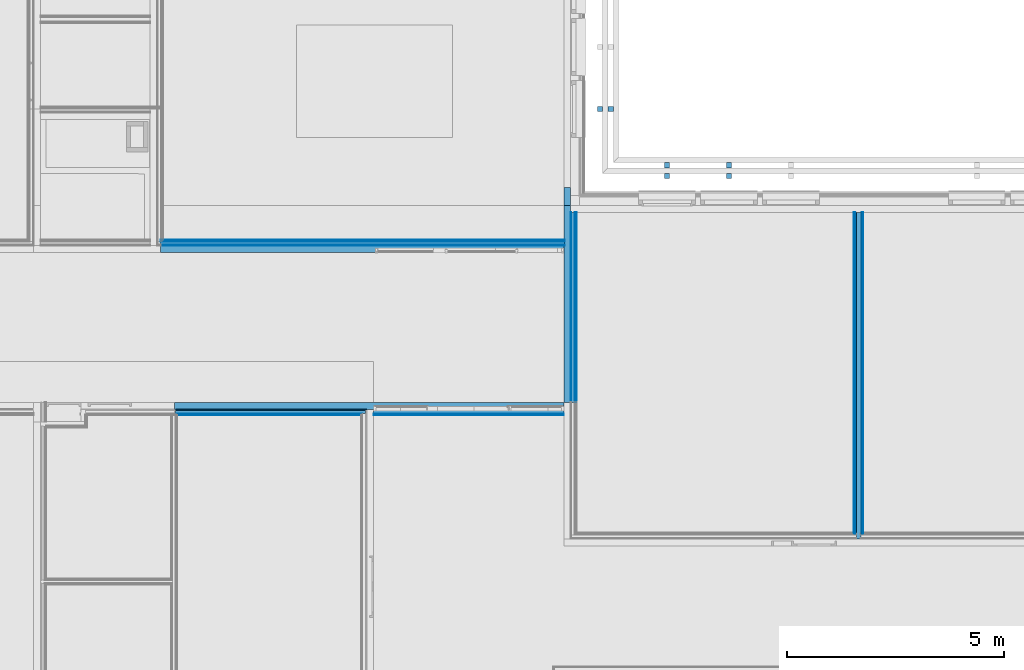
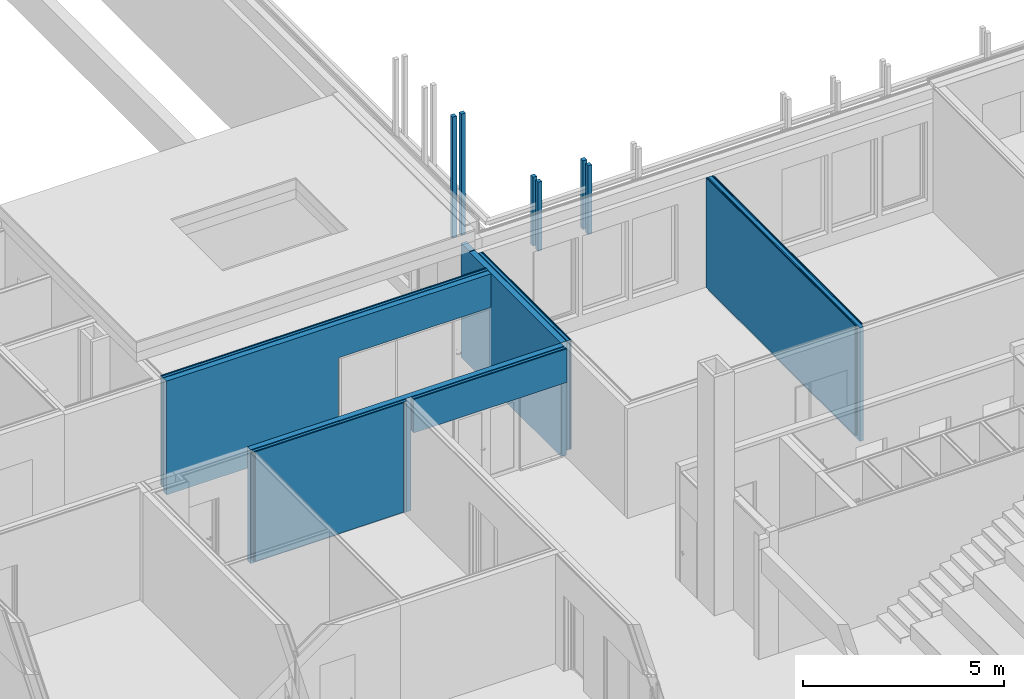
# One storey, part 101 of 139: 29 building element parts, 3 discrete accessories, 2 openings, 4 elements without a shape of their own.
"""IFC2X3 building model written with IfcOpenShell, lengths in millimetres."""

from ifc_helpers import new_model, entity, si_unit, converted_unit, derived_unit, money_unit, direction, frame, origin_with_axes, place, context, subcontext, project, spatial, faceted_brep, material, material_list, type_object, element, aggregate, save


model = new_model("IFC2X3")

# Units and contexts
model_context = context("Model", 3, precision=0.01, world=origin_with_axes(), true_north=direction((0.0, 1.0)))
body_context = subcontext(model_context, "Body", "Model", "MODEL_VIEW")
ifc_project = project(units=[si_unit("LENGTHUNIT", "METRE", prefix="MILLI"), si_unit("AREAUNIT", "SQUARE_METRE"), si_unit("VOLUMEUNIT", "CUBIC_METRE"), converted_unit("PLANEANGLEUNIT", "DEGREE", entity("IfcPlaneAngleMeasure", 0.0174532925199), si_unit("PLANEANGLEUNIT", "RADIAN"), dimensions=[0, 0, 0, 0, 0, 0, 0]), money_unit("EUR"), converted_unit("TIMEUNIT", "Year", entity("IfcTimeMeasure", 31556926.0), si_unit("TIMEUNIT", "SECOND"), dimensions=[0, 0, 1, 0, 0, 0, 0]), si_unit("MASSUNIT", "GRAM", prefix="KILO"), si_unit("THERMODYNAMICTEMPERATUREUNIT", "DEGREE_CELSIUS"), si_unit("LUMINOUSINTENSITYUNIT", "LUMEN"), si_unit("ENERGYUNIT", "JOULE", prefix="MEGA"), derived_unit("THERMALCONDUCTANCEUNIT", [(si_unit("POWERUNIT", "WATT"), 1), (si_unit("LENGTHUNIT", "METRE"), -1), (si_unit("THERMODYNAMICTEMPERATUREUNIT", "KELVIN"), -1)]), derived_unit("SPECIFICHEATCAPACITYUNIT", [(si_unit("ENERGYUNIT", "JOULE"), 1), (si_unit("MASSUNIT", "GRAM", prefix="KILO"), -1), (si_unit("THERMODYNAMICTEMPERATUREUNIT", "KELVIN"), -1)]), derived_unit("MASSDENSITYUNIT", [(si_unit("MASSUNIT", "GRAM", prefix="KILO"), 1), (si_unit("VOLUMEUNIT", "CUBIC_METRE"), -1)])], contexts=[model_context])

# Site, building, storey
site_placement = place(None, origin_with_axes())
site = spatial("IfcSite", under=ifc_project, at=site_placement, Name="Kolde pst 67a", CompositionType="ELEMENT")
building_placement = place(site_placement, origin_with_axes())
building = spatial("IfcBuilding", under=site, at=building_placement, Name="Riigigümnaasium", CompositionType="ELEMENT")
storey_placement = place(building_placement, frame((0.0, 0.0, 4600.0), z_axis=(0.0, 0.0, 1.0), x_axis=(1.0, 0.0, 0.0)))
storey = spatial("IfcBuildingStorey", under=building, at=storey_placement, Name="2. korrus", CompositionType="ELEMENT", Elevation=4600.0)

# Discrete accessories
ifc_material_1 = material(Name="_VÄLISVIIMISTLUS - sõrmjätkatud puitprussid 120x115mm, liitekohad vähemärgatavad, Platowood sõrmjätkatud kuusk või samaväärne; eeltöödeldud tuletõkkevõõbaga, tuletundlikkus B-s1, d0, Woodsafe Exterior WFX™ või samaväärne; kinnitused vastavalt EK osale")
ifc_material_list = material_list([ifc_material_1, ifc_material_1])
discrete_accessory_type = type_object("IfcDiscreteAccessoryType", Name="1+paiksekaitse 3 370 x 115")
discrete_accessory_placement = place(storey_placement, frame((37769.99923, 62725.0246394, 2150.0), z_axis=(0.0, 0.0, 1.0), x_axis=(-1.0, 0.0, 0.0)))
element("IfcDiscreteAccessory", 1, at=discrete_accessory_placement, inside=storey, type_object=discrete_accessory_type, material=ifc_material_list, Name="Päikesevarjestus", context=body_context, shape_type="Brep", body=[
    faceted_brep([(467.0, 117.5, 0.0), (347.0, 117.5, 0.0), (347.0, 117.5, 3670.0), (467.0, 117.5, 3670.0), (467.0, 2.5, 0.0), (347.0, 2.5, 0.0), (347.0, 2.5, 3670.0), (467.0, 2.5, 3670.0)], [[[0, 1, 2, 3]], [[0, 4, 5, 1]], [[1, 5, 6, 2]], [[3, 2, 6, 7]], [[4, 0, 3, 7]], [[5, 4, 7, 6]]]),
    faceted_brep([(717.0, 117.5, 0.0), (597.0, 117.5, 0.0), (597.0, 117.5, 3670.0), (717.0, 117.5, 3670.0), (717.0, 2.5, 0.0), (597.0, 2.5, 0.0), (597.0, 2.5, 3670.0), (717.0, 2.5, 3670.0)], [[[0, 1, 2, 3]], [[0, 4, 5, 1]], [[1, 5, 6, 2]], [[3, 2, 6, 7]], [[4, 0, 3, 7]], [[5, 4, 7, 6]]]),
])
for number, where, z_axis, x_axis in (
    (2, (40035.0059762, 61772.0001843, 2150.0), (0.0, 0.0, 1.0), (0.0, -1.0, 0.0)),
    (3, (38604.990882, 61771.9998075, 2150.0), (0.0, 0.0, 1.0), (0.0, -1.0, 0.0)),
):
    element("IfcDiscreteAccessory", number, at=place(storey_placement, frame(where, z_axis=z_axis, x_axis=x_axis)), inside=storey, type_object=discrete_accessory_type, material=ifc_material_list, Name="Päikesevarjestus", context=body_context, shape_type="Brep", body=[
        faceted_brep([(467.0, 117.5, 0.0), (347.0, 117.5, 0.0), (347.0, 117.5, 2090.0), (467.0, 117.5, 2090.0), (467.0, 2.5, 0.0), (347.0, 2.5, 0.0), (347.0, 2.5, 2090.0), (467.0, 2.5, 2090.0)], [[[0, 1, 2, 3]], [[0, 4, 5, 1]], [[1, 5, 6, 2]], [[3, 2, 6, 7]], [[4, 0, 3, 7]], [[5, 4, 7, 6]]]),
        faceted_brep([(717.0, 117.5, 0.0), (597.0, 117.5, 0.0), (597.0, 117.5, 2090.0), (717.0, 117.5, 2090.0), (717.0, 2.5, 0.0), (597.0, 2.5, 0.0), (597.0, 2.5, 2090.0), (717.0, 2.5, 2090.0)], [[[0, 1, 2, 3]], [[0, 4, 5, 1]], [[1, 5, 6, 2]], [[3, 2, 6, 7]], [[4, 0, 3, 7]], [[5, 4, 7, 6]]]),
    ])

# Wall, building element parts
wall_type_1 = type_object("IfcWallType", Name="SS-CLT-16/1_vill75+krohv 52 dB 300", PredefinedType="NOTDEFINED")
wall_1_placement = place(storey_placement, frame((36439.99923, 60440.0001843, -130.0), z_axis=(0.0, 0.0, 1.0), x_axis=(0.0, -1.0, 0.0)))
wall_1 = element("IfcWall", 4, at=wall_1_placement, inside=storey, type_object=wall_type_1, Name="Sisesein")
ifc_material_2 = material(Name="_VIIMISTLUSKIHT - viimistlus vastavalt SA osale")
building_element_part_1_placement = place(wall_1_placement, origin_with_axes())
building_element_part_1 = element("IfcBuildingElementPart", 5, at=building_element_part_1_placement, material=ifc_material_2, Name="_VIIMISTLUSKIHT - viimistlus vastavalt SA osale", context=body_context, shape_type="Brep", body=[
    faceted_brep([(160.000000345, 130.0, 3450.0), (160.000000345, 140.0, 3450.0), (160.000000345, 140.0, 130.0), (160.000000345, 130.0, 130.0), (4550.08522827, 140.0, 3450.0), (4550.08522827, 130.0, 3450.0), (4550.08522827, 140.0, 130.0), (4550.08522827, 130.0, 130.0)], [[[0, 1, 2, 3]], [[4, 1, 0, 5]], [[1, 4, 6, 2]], [[3, 2, 6, 7]], [[5, 0, 3, 7]], [[4, 5, 7, 6]]]),
])
ifc_material_3 = material(Name="_PLAATMATERJAL - tuletõkkekipsplaat, Knauf Red GKF või samaväärne")
building_element_part_2_placement = place(wall_1_placement, origin_with_axes())
building_element_part_2 = element("IfcBuildingElementPart", 6, at=building_element_part_2_placement, material=ifc_material_3, Name="_PLAATMATERJAL - tuletõkkekipsplaat, Knauf Red GKF või samaväärne", context=body_context, shape_type="Brep", body=[
    faceted_brep([(160.000000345, 115.0, 3450.0), (160.000000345, 130.0, 3450.0), (160.000000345, 130.0, 127.0), (160.000000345, 115.0, 127.0), (4550.08522827, 130.0, 3450.0), (4550.08522827, 115.0, 3450.0), (4550.08522827, 130.0, 127.0), (4550.08522827, 115.0, 127.0)], [[[0, 1, 2, 3]], [[4, 1, 0, 5]], [[1, 4, 6, 2]], [[3, 2, 6, 7]], [[5, 0, 3, 7]], [[4, 5, 7, 6]]]),
])
building_element_part_3_placement = place(wall_1_placement, origin_with_axes())
building_element_part_3 = element("IfcBuildingElementPart", 7, at=building_element_part_3_placement, material=ifc_material_3, Name="_PLAATMATERJAL - tuletõkkekipsplaat, Knauf Red GKF või samaväärne", context=body_context, shape_type="Brep", body=[
    faceted_brep([(160.000000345, 100.0, 3450.0), (160.000000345, 115.0, 3450.0), (160.000000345, 115.0, 127.0), (160.000000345, 100.0, 127.0), (4550.08522827, 115.0, 3450.0), (4550.08522827, 100.0, 3450.0), (4550.08522827, 115.0, 127.0), (4550.08522827, 100.0, 127.0)], [[[0, 1, 2, 3]], [[4, 1, 0, 5]], [[1, 4, 6, 2]], [[3, 2, 6, 7]], [[5, 0, 3, 7]], [[4, 5, 7, 6]]]),
])
ifc_material_4 = material(Name="_PLAATMATERJAL - OSB3 plaat")
building_element_part_4_placement = place(wall_1_placement, origin_with_axes())
building_element_part_4 = element("IfcBuildingElementPart", 8, at=building_element_part_4_placement, material=ifc_material_4, Name="_PLAATMATERJAL - OSB3 plaat", context=body_context, shape_type="Brep", body=[
    faceted_brep([(160.000000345, 90.0, 3450.0), (160.000000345, 100.0, 3450.0), (160.000000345, 100.0, 127.0), (160.000000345, 90.0, 127.0), (4550.08522827, 100.0, 3450.0), (4550.08522827, 90.0, 3450.0), (4550.08522827, 100.0, 127.0), (4550.08522827, 90.0, 127.0)], [[[0, 1, 2, 3]], [[4, 1, 0, 5]], [[1, 4, 6, 2]], [[3, 2, 6, 7]], [[5, 0, 3, 7]], [[4, 5, 7, 6]]]),
])
ifc_material_5 = material(Name="_KARKASS - metallkarkass CW 75/50/06 ja UW 75/40/06, samm 600, vahel mineraalvill, helineeldetegur αw = 1.0,  ISOVER ACOUSTIC 75mm või samaväärne")
building_element_part_5_placement = place(wall_1_placement, origin_with_axes())
building_element_part_5 = element("IfcBuildingElementPart", 9, at=building_element_part_5_placement, material=ifc_material_5, Name="_KARKASS - metallkarkass CW 75/50/06 ja UW 75/40/06, samm 600, vahel mineraalvill, helineeldetegur αw = 1.0,  ISOVER ACOUSTIC 75mm või samaväärne", context=body_context, shape_type="Brep", body=[
    faceted_brep([(160.000000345, 15.0, 3450.0), (160.000000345, 90.0, 3450.0), (160.000000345, 90.0, 127.0), (160.000000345, 15.0, 127.0), (4550.08522827, 90.0, 3450.0), (4550.08522827, 15.0, 3450.0), (4550.08522827, 90.0, 127.0), (4550.08522827, 15.0, 127.0)], [[[0, 1, 2, 3]], [[4, 1, 0, 5]], [[1, 4, 6, 2]], [[3, 2, 6, 7]], [[5, 0, 3, 7]], [[4, 5, 7, 6]]]),
])
ifc_material_6 = material(Name="_ÕHKVAHE")
building_element_part_6_placement = place(wall_1_placement, origin_with_axes())
building_element_part_6 = element("IfcBuildingElementPart", 10, at=building_element_part_6_placement, material=ifc_material_6, Name="_ÕHKVAHE", context=body_context, shape_type="Brep", body=[
    faceted_brep([(160.000000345, 0.0, 3450.0), (160.000000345, 15.0, 3450.0), (160.000000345, 15.0, 127.0), (160.000000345, 0.0, 127.0), (4550.08522827, 15.0, 3450.0), (4550.08522827, 0.0, 3450.0), (4550.08522827, 15.0, 127.0), (4550.08522827, 0.0, 127.0)], [[[0, 1, 2, 3]], [[4, 1, 0, 5]], [[1, 4, 6, 2]], [[3, 2, 6, 7]], [[5, 0, 3, 7]], [[4, 5, 7, 6]]]),
])
ifc_material_7 = material(Name="_KANDETARIND - CLT ristkihtliimpuit vastavalt EK osale, CLT paigaldusvuugid teibitakse ROTHOBLAAS teibiga")
building_element_part_7_placement = place(wall_1_placement, origin_with_axes())
building_element_part_7 = element("IfcBuildingElementPart", 11, at=building_element_part_7_placement, material=ifc_material_7, Name="_KANDETARIND - CLT ristkihtliimpuit vastavalt EK osale, CLT paigaldusvuugid teibitakse ROTHOBLAAS teibiga", context=body_context, shape_type="Brep", body=[
    faceted_brep([(0.0, -160.0, 3470.0), (0.0, 0.0, 3470.0), (-412.0, 0.0, 3470.0), (-412.0, -160.0, 3470.0), (0.0, 0.0, 3450.0), (0.0, -160.0, 3450.0), (4550.08522827, 0.0, 3450.0), (4550.08522827, 0.0, 0.0), (-412.0, 0.0, 0.0), (-412.0, -160.0, 0.0), (4550.08522827, -160.0, 0.0), (4550.08522827, -160.0, 3450.0)], [[[0, 1, 2, 3]], [[4, 1, 0, 5]], [[4, 6, 7, 8, 2, 1]], [[9, 3, 2, 8]], [[5, 0, 3, 9, 10, 11]], [[6, 4, 5, 11]], [[6, 11, 10, 7]], [[10, 9, 8, 7]]]),
])
aggregate(wall_1, [building_element_part_1, building_element_part_2, building_element_part_3, building_element_part_4, building_element_part_5, building_element_part_6, building_element_part_7])

# Wall, opening, building element parts
wall_2_placement = place(storey_placement, frame((36299.99923, 59349.9979478, -150.0), z_axis=(0.0, 0.0, 1.0), x_axis=(-1.0, 0.0, 0.0)))
wall_2 = element("IfcWall", 12, at=wall_2_placement, inside=storey, type_object=wall_type_1, Name="Sisesein")
opening_1_placement = place(wall_2_placement, frame((2197.5, 0.0, 150.0), z_axis=(0.0, 0.0, 1.0), x_axis=(1.0, 0.0, 0.0)))
element("IfcOpeningElement", 13, at=opening_1_placement, cuts=wall_2, Name="Ukseava", context=body_context, shape_type="Brep", body=[
    faceted_brep([(2197.5, 600.0, 0.0), (2197.5, 600.0, 2300.0), (2197.5, -300.0, 2300.0), (2197.5, -300.0, 0.0), (-2197.5, 600.0, 0.0), (-2197.5, 600.0, 2300.0), (-2197.5, -300.0, 2300.0), (-2197.5, -300.0, 0.0)], [[[0, 1, 2, 3]], [[0, 4, 5, 1]], [[1, 5, 6, 2]], [[3, 2, 6, 7]], [[4, 0, 3, 7]], [[5, 4, 7, 6]]]),
])
building_element_part_8_placement = place(wall_2_placement, origin_with_axes())
building_element_part_8 = element("IfcBuildingElementPart", 14, at=building_element_part_8_placement, material=ifc_material_7, Name="_KANDETARIND - CLT ristkihtliimpuit vastavalt EK osale, CLT paigaldusvuugid teibitakse ROTHOBLAAS teibiga", context=body_context, shape_type="Brep", body=[
    faceted_brep([(0.0, 0.0, 2450.0), (0.0, -160.0, 2450.0), (0.0, -160.0, 3470.0), (0.0, 0.0, 3470.0), (4395.0, -160.0, 2450.0), (4395.0, 0.0, 2450.0), (4395.0, -160.0, 150.0), (4395.0, -160.0, 20.0), (9330.0, -160.0, 20.0), (9330.0, -160.0, 3470.0), (9330.0, 0.0, 3470.0), (9330.0, 0.0, 20.0), (4395.0, 0.0, 20.0), (4395.0, 0.0, 150.0)], [[[0, 1, 2, 3]], [[4, 1, 0, 5]], [[4, 6, 7, 8, 9, 2, 1]], [[2, 9, 10, 3]], [[5, 0, 3, 10, 11, 12, 13]], [[6, 4, 5, 13]], [[6, 13, 12, 7]], [[12, 11, 8, 7]], [[9, 8, 11, 10]]]),
])
building_element_part_9_placement = place(wall_2_placement, origin_with_axes())
building_element_part_9 = element("IfcBuildingElementPart", 15, at=building_element_part_9_placement, material=ifc_material_6, Name="_ÕHKVAHE", context=body_context, shape_type="Brep", body=[
    faceted_brep([(0.0, -160.0, 2450.0), (0.0, -175.0, 2450.0), (0.0, -175.0, 3470.0), (0.0, -160.0, 3470.0), (4395.0, -175.0, 2450.0), (4395.0, -160.0, 2450.0), (4395.0, -175.0, 150.0), (4395.0, -175.0, 147.0), (5890.02113189, -175.0, 147.0), (5890.02113189, -175.0, 150.0), (5965.02113189, -175.0, 150.0), (5965.02113189, -175.0, 147.0), (7240.0256299, -175.0, 147.0), (7240.0256299, -175.0, 150.0), (7315.0256299, -175.0, 150.0), (7315.0256299, -175.0, 147.0), (8494.99994488, -175.0, 147.0), (8494.99994488, -175.0, 150.0), (8594.99994509, -175.0, 150.0), (8594.99994509, -175.0, 147.0), (9330.0, -175.0, 147.0), (9330.0, -175.0, 3470.0), (9330.0, -160.0, 3470.0), (9330.0, -160.0, 147.0), (8594.99994509, -160.0, 147.0), (8594.99994509, -160.0, 150.0), (8494.9999449, -160.0, 150.0), (8494.9999449, -160.0, 147.0), (7315.0256299, -160.0, 147.0), (7315.0256299, -160.0, 150.0), (7240.0256299, -160.0, 150.0), (7240.0256299, -160.0, 147.0), (5965.02130463, -160.0, 147.0), (5965.02130463, -160.0, 150.0), (5890.02130463, -160.0, 150.0), (5890.02130463, -160.0, 147.0), (4395.0, -160.0, 147.0), (4395.0, -160.0, 150.0)], [[[0, 1, 2, 3]], [[4, 1, 0, 5]], [[4, 6, 7, 8, 9, 10, 11, 12, 13, 14, 15, 16, 17, 18, 19, 20, 21, 2, 1]], [[2, 21, 22, 3]], [[5, 0, 3, 22, 23, 24, 25, 26, 27, 28, 29, 30, 31, 32, 33, 34, 35, 36, 37]], [[6, 4, 5, 37]], [[6, 37, 36, 7]], [[36, 35, 8, 7]], [[35, 34, 9, 8]], [[10, 9, 34, 33]], [[11, 10, 33, 32]], [[11, 32, 31, 12]], [[31, 30, 13, 12]], [[14, 13, 30, 29]], [[15, 14, 29, 28]], [[15, 28, 27, 16]], [[27, 26, 17, 16]], [[18, 17, 26, 25]], [[19, 18, 25, 24]], [[19, 24, 23, 20]], [[21, 20, 23, 22]]]),
])
building_element_part_10_placement = place(wall_2_placement, origin_with_axes())
building_element_part_10 = element("IfcBuildingElementPart", 16, at=building_element_part_10_placement, material=ifc_material_5, Name="_KARKASS - metallkarkass CW 75/50/06 ja UW 75/40/06, samm 600, vahel mineraalvill, helineeldetegur αw = 1.0,  ISOVER ACOUSTIC 75mm või samaväärne", context=body_context, shape_type="Brep", body=[
    faceted_brep([(0.0, -175.0, 2450.0), (0.0, -250.0, 2450.0), (0.0, -250.0, 3470.0), (0.0, -175.0, 3470.0), (4395.0, -250.0, 2450.0), (4395.0, -175.0, 2450.0), (4395.0, -250.0, 150.0), (4395.0, -250.0, 147.0), (5890.02026819, -250.0, 147.0), (5890.02026819, -250.0, 150.0), (5965.0202682, -250.0, 150.0), (5965.0202682, -250.0, 147.0), (7240.0256299, -250.0, 147.0), (7240.0256299, -250.0, 150.0), (7315.0256299, -250.0, 150.0), (7315.0256299, -250.0, 147.0), (8494.99994478, -250.0, 147.0), (8494.99994478, -250.0, 150.0), (8594.99994509, -250.0, 150.0), (8594.99994509, -250.0, 147.0), (9330.0, -250.0, 147.0), (9330.0, -250.0, 3470.0), (9330.0, -175.0, 3470.0), (9330.0, -175.0, 147.0), (8594.99994509, -175.0, 147.0), (8594.99994509, -175.0, 150.0), (8494.99994488, -175.0, 150.0), (8494.99994488, -175.0, 147.0), (7315.0256299, -175.0, 147.0), (7315.0256299, -175.0, 150.0), (7240.0256299, -175.0, 150.0), (7240.0256299, -175.0, 147.0), (5965.02113189, -175.0, 147.0), (5965.02113189, -175.0, 150.0), (5890.02113189, -175.0, 150.0), (5890.02113189, -175.0, 147.0), (4395.0, -175.0, 147.0), (4395.0, -175.0, 150.0)], [[[0, 1, 2, 3]], [[4, 1, 0, 5]], [[4, 6, 7, 8, 9, 10, 11, 12, 13, 14, 15, 16, 17, 18, 19, 20, 21, 2, 1]], [[2, 21, 22, 3]], [[5, 0, 3, 22, 23, 24, 25, 26, 27, 28, 29, 30, 31, 32, 33, 34, 35, 36, 37]], [[6, 4, 5, 37]], [[6, 37, 36, 7]], [[36, 35, 8, 7]], [[35, 34, 9, 8]], [[10, 9, 34, 33]], [[11, 10, 33, 32]], [[11, 32, 31, 12]], [[31, 30, 13, 12]], [[14, 13, 30, 29]], [[15, 14, 29, 28]], [[15, 28, 27, 16]], [[27, 26, 17, 16]], [[18, 17, 26, 25]], [[19, 18, 25, 24]], [[19, 24, 23, 20]], [[21, 20, 23, 22]]]),
])
building_element_part_11_placement = place(wall_2_placement, origin_with_axes())
building_element_part_11 = element("IfcBuildingElementPart", 17, at=building_element_part_11_placement, material=ifc_material_4, Name="_PLAATMATERJAL - OSB3 plaat", context=body_context, shape_type="Brep", body=[
    faceted_brep([(0.0, -250.0, 2450.0), (0.0, -260.0, 2450.0), (0.0, -260.0, 3470.0), (0.0, -250.0, 3470.0), (4395.0, -260.0, 2450.0), (4395.0, -250.0, 2450.0), (4395.0, -260.0, 150.0), (4395.0, -260.0, 147.0), (5890.02015303, -260.0, 147.0), (5890.02015303, -260.0, 150.0), (5965.02015304, -260.0, 150.0), (5965.02015304, -260.0, 147.0), (7240.0256299, -260.0, 147.0), (7240.0256299, -260.0, 150.0), (7315.0256299, -260.0, 150.0), (7315.0256299, -260.0, 147.0), (8494.99994477, -260.0, 147.0), (8494.99994477, -260.0, 150.0), (8594.99994509, -260.0, 150.0), (8594.99994509, -260.0, 147.0), (9330.0, -260.0, 147.0), (9330.0, -260.0, 3470.0), (9330.0, -250.0, 3470.0), (9330.0, -250.0, 147.0), (8594.99994509, -250.0, 147.0), (8594.99994509, -250.0, 150.0), (8494.99994478, -250.0, 150.0), (8494.99994478, -250.0, 147.0), (7315.0256299, -250.0, 147.0), (7315.0256299, -250.0, 150.0), (7240.0256299, -250.0, 150.0), (7240.0256299, -250.0, 147.0), (5965.0202682, -250.0, 147.0), (5965.0202682, -250.0, 150.0), (5890.02026819, -250.0, 150.0), (5890.02026819, -250.0, 147.0), (4395.0, -250.0, 147.0), (4395.0, -250.0, 150.0)], [[[0, 1, 2, 3]], [[4, 1, 0, 5]], [[4, 6, 7, 8, 9, 10, 11, 12, 13, 14, 15, 16, 17, 18, 19, 20, 21, 2, 1]], [[2, 21, 22, 3]], [[5, 0, 3, 22, 23, 24, 25, 26, 27, 28, 29, 30, 31, 32, 33, 34, 35, 36, 37]], [[6, 4, 5, 37]], [[6, 37, 36, 7]], [[36, 35, 8, 7]], [[35, 34, 9, 8]], [[10, 9, 34, 33]], [[11, 10, 33, 32]], [[11, 32, 31, 12]], [[31, 30, 13, 12]], [[14, 13, 30, 29]], [[15, 14, 29, 28]], [[15, 28, 27, 16]], [[27, 26, 17, 16]], [[18, 17, 26, 25]], [[19, 18, 25, 24]], [[19, 24, 23, 20]], [[21, 20, 23, 22]]]),
])
building_element_part_12_placement = place(wall_2_placement, origin_with_axes())
building_element_part_12 = element("IfcBuildingElementPart", 18, at=building_element_part_12_placement, material=ifc_material_3, Name="_PLAATMATERJAL - tuletõkkekipsplaat, Knauf Red GKF või samaväärne", context=body_context, shape_type="Brep", body=[
    faceted_brep([(0.0, -260.0, 2450.0), (0.0, -275.0, 2450.0), (0.0, -275.0, 3470.0), (0.0, -260.0, 3470.0), (4395.0, -275.0, 2450.0), (4395.0, -260.0, 2450.0), (4395.0, -275.0, 150.0), (4395.0, -275.0, 147.0), (5890.01998029, -275.0, 147.0), (5890.01998029, -275.0, 150.0), (5965.0199803, -275.0, 150.0), (5965.0199803, -275.0, 147.0), (7240.0256299, -275.0, 147.0), (7240.0256299, -275.0, 150.0), (7315.0256299, -275.0, 150.0), (7315.0256299, -275.0, 147.0), (8494.99994475, -275.0, 147.0), (8494.99994475, -275.0, 150.0), (8594.99994509, -275.0, 150.0), (8594.99994509, -275.0, 147.0), (9330.0, -275.0, 147.0), (9330.0, -275.0, 3470.0), (9330.0, -260.0, 3470.0), (9330.0, -260.0, 147.0), (8594.99994509, -260.0, 147.0), (8594.99994509, -260.0, 150.0), (8494.99994477, -260.0, 150.0), (8494.99994477, -260.0, 147.0), (7315.0256299, -260.0, 147.0), (7315.0256299, -260.0, 150.0), (7240.0256299, -260.0, 150.0), (7240.0256299, -260.0, 147.0), (5965.02015304, -260.0, 147.0), (5965.02015304, -260.0, 150.0), (5890.02015303, -260.0, 150.0), (5890.02015303, -260.0, 147.0), (4395.0, -260.0, 147.0), (4395.0, -260.0, 150.0)], [[[0, 1, 2, 3]], [[4, 1, 0, 5]], [[4, 6, 7, 8, 9, 10, 11, 12, 13, 14, 15, 16, 17, 18, 19, 20, 21, 2, 1]], [[2, 21, 22, 3]], [[5, 0, 3, 22, 23, 24, 25, 26, 27, 28, 29, 30, 31, 32, 33, 34, 35, 36, 37]], [[6, 4, 5, 37]], [[6, 37, 36, 7]], [[36, 35, 8, 7]], [[35, 34, 9, 8]], [[10, 9, 34, 33]], [[11, 10, 33, 32]], [[11, 32, 31, 12]], [[31, 30, 13, 12]], [[14, 13, 30, 29]], [[15, 14, 29, 28]], [[15, 28, 27, 16]], [[27, 26, 17, 16]], [[18, 17, 26, 25]], [[19, 18, 25, 24]], [[19, 24, 23, 20]], [[21, 20, 23, 22]]]),
])
building_element_part_13_placement = place(wall_2_placement, origin_with_axes())
building_element_part_13 = element("IfcBuildingElementPart", 19, at=building_element_part_13_placement, material=ifc_material_3, Name="_PLAATMATERJAL - tuletõkkekipsplaat, Knauf Red GKF või samaväärne", context=body_context, shape_type="Brep", body=[
    faceted_brep([(0.0, -275.0, 2450.0), (0.0, -290.0, 2450.0), (0.0, -290.0, 3470.0), (0.0, -275.0, 3470.0), (4395.0, -290.0, 2450.0), (4395.0, -275.0, 2450.0), (4395.0, -290.0, 150.0), (4395.0, -290.0, 147.0), (5890.01980755, -290.0, 147.0), (5890.01980755, -290.0, 150.0), (5965.01980756, -290.0, 150.0), (5965.01980756, -290.0, 147.0), (7240.0256299, -290.0, 147.0), (7240.0256299, -290.0, 150.0), (7315.0256299, -290.0, 150.0), (7315.0256299, -290.0, 147.0), (8494.99994474, -290.0, 147.0), (8494.99994474, -290.0, 150.0), (8594.99994509, -290.0, 150.0), (8594.99994509, -290.0, 147.0), (9330.0, -290.0, 147.0), (9330.0, -290.0, 3470.0), (9330.0, -275.0, 3470.0), (9330.0, -275.0, 147.0), (8594.99994509, -275.0, 147.0), (8594.99994509, -275.0, 150.0), (8494.99994475, -275.0, 150.0), (8494.99994475, -275.0, 147.0), (7315.0256299, -275.0, 147.0), (7315.0256299, -275.0, 150.0), (7240.0256299, -275.0, 150.0), (7240.0256299, -275.0, 147.0), (5965.0199803, -275.0, 147.0), (5965.0199803, -275.0, 150.0), (5890.01998029, -275.0, 150.0), (5890.01998029, -275.0, 147.0), (4395.0, -275.0, 147.0), (4395.0, -275.0, 150.0)], [[[0, 1, 2, 3]], [[4, 1, 0, 5]], [[4, 6, 7, 8, 9, 10, 11, 12, 13, 14, 15, 16, 17, 18, 19, 20, 21, 2, 1]], [[2, 21, 22, 3]], [[5, 0, 3, 22, 23, 24, 25, 26, 27, 28, 29, 30, 31, 32, 33, 34, 35, 36, 37]], [[6, 4, 5, 37]], [[6, 37, 36, 7]], [[36, 35, 8, 7]], [[35, 34, 9, 8]], [[10, 9, 34, 33]], [[11, 10, 33, 32]], [[11, 32, 31, 12]], [[31, 30, 13, 12]], [[14, 13, 30, 29]], [[15, 14, 29, 28]], [[15, 28, 27, 16]], [[27, 26, 17, 16]], [[18, 17, 26, 25]], [[19, 18, 25, 24]], [[19, 24, 23, 20]], [[21, 20, 23, 22]]]),
])
building_element_part_14_placement = place(wall_2_placement, origin_with_axes())
building_element_part_14 = element("IfcBuildingElementPart", 20, at=building_element_part_14_placement, material=ifc_material_2, Name="_VIIMISTLUSKIHT - viimistlus vastavalt SA osale", context=body_context, shape_type="Brep", body=[
    faceted_brep([(0.0, -290.0, 2450.0), (0.0, -300.0, 2450.0), (0.0, -300.0, 3470.0), (0.0, -290.0, 3470.0), (4395.0, -300.0, 2450.0), (4395.0, -290.0, 2450.0), (4395.0, -300.0, 150.0), (9330.0, -300.0, 150.0), (9330.0, -300.0, 3470.0), (9330.0, -290.0, 3470.0), (9330.0, -290.0, 150.0), (4395.0, -290.0, 150.0)], [[[0, 1, 2, 3]], [[4, 1, 0, 5]], [[4, 6, 7, 8, 2, 1]], [[2, 8, 9, 3]], [[5, 0, 3, 9, 10, 11]], [[6, 4, 5, 11]], [[6, 11, 10, 7]], [[8, 7, 10, 9]]]),
])
aggregate(wall_2, [building_element_part_8, building_element_part_9, building_element_part_10, building_element_part_11, building_element_part_12, building_element_part_13, building_element_part_14])

# Wall, building element parts
wall_type_2 = type_object("IfcWallType", Name="SS-PK-10/4_vill100+2värv distantsliistudega 220", PredefinedType="NOTDEFINED")
wall_3_placement = place(storey_placement, frame((42978.0413793, 52580.0001843, -130.0), z_axis=(0.0, 0.0, 1.0), x_axis=(0.0, 1.0, 0.0)))
wall_3 = element("IfcWall", 21, at=wall_3_placement, inside=storey, type_object=wall_type_2, Name="Sisesein")
building_element_part_15_placement = place(wall_3_placement, origin_with_axes())
building_element_part_15 = element("IfcBuildingElementPart", 22, at=building_element_part_15_placement, material=ifc_material_2, Name="_VIIMISTLUSKIHT - viimistlus vastavalt SA osale", context=body_context, shape_type="Brep", body=[
    faceted_brep([(7700.0, 0.0, 3450.0), (7700.0, -5.0, 3450.0), (7700.0, -5.0, 130.0), (7700.0, 0.0, 130.0), (300.0, -5.0, 3450.0), (300.0, 0.0, 3450.0), (300.0, -5.0, 130.0), (300.0, 0.0, 130.0)], [[[0, 1, 2, 3]], [[4, 1, 0, 5]], [[1, 4, 6, 2]], [[3, 2, 6, 7]], [[5, 0, 3, 7]], [[4, 5, 7, 6]]]),
])
building_element_part_16_placement = place(wall_3_placement, origin_with_axes())
building_element_part_16 = element("IfcBuildingElementPart", 23, at=building_element_part_16_placement, material=ifc_material_3, Name="_PLAATMATERJAL - tuletõkkekipsplaat, Knauf Red GKF või samaväärne", context=body_context, shape_type="Brep", body=[
    faceted_brep([(7700.0, -5.0, 3450.0), (7700.0, -20.0, 3450.0), (7700.0, -20.0, 127.0), (7700.0, -5.0, 127.0), (290.0, -20.0, 3450.0), (290.0, -5.0, 3450.0), (290.0, -20.0, 127.0), (290.0, -5.0, 127.0)], [[[0, 1, 2, 3]], [[4, 1, 0, 5]], [[1, 4, 6, 2]], [[3, 2, 6, 7]], [[5, 0, 3, 7]], [[4, 5, 7, 6]]]),
])
building_element_part_17_placement = place(wall_3_placement, origin_with_axes())
building_element_part_17 = element("IfcBuildingElementPart", 24, at=building_element_part_17_placement, material=ifc_material_4, Name="_PLAATMATERJAL - OSB3 plaat", context=body_context, shape_type="Brep", body=[
    faceted_brep([(7700.0, -20.0, 3450.0), (7700.0, -35.0, 3450.0), (7700.0, -35.0, 127.0), (7700.0, -20.0, 127.0), (275.0, -35.0, 3450.0), (275.0, -20.0, 3450.0), (275.0, -35.0, 127.0), (275.0, -20.0, 127.0)], [[[0, 1, 2, 3]], [[4, 1, 0, 5]], [[1, 4, 6, 2]], [[3, 2, 6, 7]], [[5, 0, 3, 7]], [[4, 5, 7, 6]]]),
])
ifc_material_8 = material(Name="_KARKASS- distantasliist")
building_element_part_18_placement = place(wall_3_placement, origin_with_axes())
building_element_part_18 = element("IfcBuildingElementPart", 25, at=building_element_part_18_placement, material=ifc_material_8, Name="_KARKASS- distantasliist", context=body_context, shape_type="Brep", body=[
    faceted_brep([(7700.0, -35.0, 3450.0), (7700.0, -60.0, 3450.0), (7700.0, -60.0, 127.0), (7700.0, -35.0, 127.0), (275.0, -60.0, 3450.0), (275.0, -35.0, 3450.0), (275.0, -60.0, 127.0), (275.0, -35.0, 127.0)], [[[0, 1, 2, 3]], [[4, 1, 0, 5]], [[1, 4, 6, 2]], [[3, 2, 6, 7]], [[5, 0, 3, 7]], [[4, 5, 7, 6]]]),
])
ifc_material_9 = material(Name="_KARKASS - puitpruss 100x50mm vertikaalne, samm 600mm, vahel mineraalvill, helineeldetegur αw = 1.0, ISOVER ACOUSTIC 100mm või samaväärne")
building_element_part_19_placement = place(wall_3_placement, origin_with_axes())
building_element_part_19 = element("IfcBuildingElementPart", 26, at=building_element_part_19_placement, material=ifc_material_9, Name="_KARKASS - puitpruss 100x50mm vertikaalne, samm 600mm, vahel mineraalvill, helineeldetegur αw = 1.0, ISOVER ACOUSTIC 100mm või samaväärne", context=body_context, shape_type="Brep", body=[
    faceted_brep([(7700.0, -60.0, 3450.0), (7700.0, -160.0, 3450.0), (7700.0, -160.0, 0.0), (7700.0, -60.0, 0.0), (160.0, -160.0, 3450.0), (160.0, -60.0, 3450.0), (160.0, -160.0, 0.0), (160.0, -60.0, 0.0)], [[[0, 1, 2, 3]], [[4, 1, 0, 5]], [[1, 4, 6, 2]], [[3, 2, 6, 7]], [[5, 0, 3, 7]], [[4, 5, 7, 6]]]),
])
building_element_part_20_placement = place(wall_3_placement, origin_with_axes())
building_element_part_20 = element("IfcBuildingElementPart", 27, at=building_element_part_20_placement, material=ifc_material_8, Name="_KARKASS- distantasliist", context=body_context, shape_type="Brep", body=[
    faceted_brep([(7700.0, -160.0, 3450.0), (7700.0, -185.0, 3450.0), (7700.0, -185.0, 127.0), (7700.0, -160.0, 127.0), (275.0, -185.0, 3450.0), (275.0, -160.0, 3450.0), (275.0, -185.0, 127.0), (275.0, -160.0, 127.0)], [[[0, 1, 2, 3]], [[4, 1, 0, 5]], [[1, 4, 6, 2]], [[3, 2, 6, 7]], [[5, 0, 3, 7]], [[4, 5, 7, 6]]]),
])
building_element_part_21_placement = place(wall_3_placement, origin_with_axes())
building_element_part_21 = element("IfcBuildingElementPart", 28, at=building_element_part_21_placement, material=ifc_material_4, Name="_PLAATMATERJAL - OSB3 plaat", context=body_context, shape_type="Brep", body=[
    faceted_brep([(7700.0, -185.0, 3450.0), (7700.0, -200.0, 3450.0), (7700.0, -200.0, 127.0), (7700.0, -185.0, 127.0), (275.0, -200.0, 3450.0), (275.0, -185.0, 3450.0), (275.0, -200.0, 127.0), (275.0, -185.0, 127.0)], [[[0, 1, 2, 3]], [[4, 1, 0, 5]], [[1, 4, 6, 2]], [[3, 2, 6, 7]], [[5, 0, 3, 7]], [[4, 5, 7, 6]]]),
])
building_element_part_22_placement = place(wall_3_placement, origin_with_axes())
building_element_part_22 = element("IfcBuildingElementPart", 29, at=building_element_part_22_placement, material=ifc_material_3, Name="_PLAATMATERJAL - tuletõkkekipsplaat, Knauf Red GKF või samaväärne", context=body_context, shape_type="Brep", body=[
    faceted_brep([(7700.0, -200.0, 3450.0), (7700.0, -215.0, 3450.0), (7700.0, -215.0, 127.0), (7700.0, -200.0, 127.0), (290.0, -215.0, 3450.0), (290.0, -200.0, 3450.0), (290.0, -215.0, 127.0), (290.0, -200.0, 127.0)], [[[0, 1, 2, 3]], [[4, 1, 0, 5]], [[1, 4, 6, 2]], [[3, 2, 6, 7]], [[5, 0, 3, 7]], [[4, 5, 7, 6]]]),
])
building_element_part_23_placement = place(wall_3_placement, origin_with_axes())
building_element_part_23 = element("IfcBuildingElementPart", 30, at=building_element_part_23_placement, material=ifc_material_2, Name="_VIIMISTLUSKIHT - viimistlus vastavalt SA osale", context=body_context, shape_type="Brep", body=[
    faceted_brep([(7700.0, -215.0, 3450.0), (7700.0, -220.0, 3450.0), (7700.0, -220.0, 130.0), (7700.0, -215.0, 130.0), (300.0, -220.0, 3450.0), (300.0, -215.0, 3450.0), (300.0, -220.0, 130.0), (300.0, -215.0, 130.0)], [[[0, 1, 2, 3]], [[4, 1, 0, 5]], [[1, 4, 6, 2]], [[3, 2, 6, 7]], [[5, 0, 3, 7]], [[4, 5, 7, 6]]]),
])
aggregate(wall_3, [building_element_part_15, building_element_part_16, building_element_part_17, building_element_part_18, building_element_part_19, building_element_part_20, building_element_part_21, building_element_part_22, building_element_part_23])

# Wall, opening, building element parts
wall_type_3 = type_object("IfcWallType", Name="SS-CLT-16/5_vill75+värv 52 dB 292", PredefinedType="NOTDEFINED")
wall_4_placement = place(storey_placement, frame((27288.6959239, 55889.9736057, -150.0), z_axis=(0.0, 0.0, 1.0), x_axis=(0.99999999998, -6.33002341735e-06, 0.0)))
wall_4 = element("IfcWall", 31, at=wall_4_placement, inside=storey, type_object=wall_type_3, Name="Sisesein")
opening_2_placement = place(wall_4_placement, frame((6796.30537988, 0.0, 150.0), z_axis=(0.0, 0.0, 1.0), x_axis=(1.0, 0.0, 0.0)))
element("IfcOpeningElement", 32, at=opening_2_placement, cuts=wall_4, Name="Ava", context=body_context, shape_type="Brep", body=[
    faceted_brep([(2194.99961019, 584.0, 0.0), (2194.99961019, 584.0, 2300.0), (2194.99961019, -292.0, 2300.0), (2194.99961019, -292.0, 0.0), (-2194.99961019, 584.0, 0.0), (-2194.99961019, 584.0, 2300.0), (-2194.99961019, -292.0, 2300.0), (-2194.99961019, -292.0, 0.0)], [[[0, 1, 2, 3]], [[0, 4, 5, 1]], [[1, 5, 6, 2]], [[3, 2, 6, 7]], [[4, 0, 3, 7]], [[5, 4, 7, 6]]]),
])
building_element_part_24_placement = place(wall_4_placement, origin_with_axes())
building_element_part_24 = element("IfcBuildingElementPart", 33, at=building_element_part_24_placement, material=ifc_material_7, Name="_KANDETARIND - CLT ristkihtliimpuit vastavalt EK osale, CLT paigaldusvuugid teibitakse ROTHOBLAAS teibiga", context=body_context, shape_type="Brep", body=[
    faceted_brep([(8991.30499007, -159.999999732, 2450.0), (8991.30499007, -0.00173442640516, 2450.0), (8991.30331638, -0.00173442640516, 3470.0), (8991.30432311, -159.999999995, 3470.0), (4601.30576969, 0.0, 2450.0), (4601.30576969, -159.999999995, 2450.0), (4601.30576969, -0.00173442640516, 150.0), (4601.30685334, 0.00107633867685, 20.0), (0.0, 0.0, 20.0), (0.0, 0.0, 3470.0), (0.0, -160.0, 3470.0), (0.0, -160.0, 20.0), (4601.30786615, -159.999999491, 20.0), (4601.30576969, -159.999999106, 150.0)], [[[0, 1, 2, 3]], [[4, 1, 0, 5]], [[4, 6, 7, 8, 9, 2, 1]], [[10, 3, 2, 9]], [[5, 0, 3, 10, 11, 12, 13]], [[6, 4, 5, 13]], [[6, 13, 12, 7]], [[11, 8, 7, 12]], [[9, 8, 11, 10]]]),
])
building_element_part_25_placement = place(wall_4_placement, origin_with_axes())
building_element_part_25 = element("IfcBuildingElementPart", 34, at=building_element_part_25_placement, material=ifc_material_6, Name="_ÕHKVAHE", context=body_context, shape_type="Brep", body=[
    faceted_brep([(8991.30499007, -185.000000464, 2450.0), (8991.30499007, -159.999999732, 2450.0), (8991.30432311, -159.999999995, 3470.0), (8991.30448041, -185.000000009, 3470.0), (4601.30576969, -159.999999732, 2450.0), (4601.30576969, -185.000000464, 2450.0), (4601.30786617, -159.999999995, 3470.0), (4601.30802442, -185.000000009, 3470.0)], [[[0, 1, 2, 3]], [[4, 1, 0, 5]], [[1, 4, 6, 2]], [[2, 6, 7, 3]], [[5, 0, 3, 7]], [[4, 5, 7, 6]]]),
    faceted_brep([(29.3086704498, -159.999999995, 3470.0), (4441.30786615, -159.999999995, 3470.0), (4441.30786615, -159.999999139, 147.0), (29.3086704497, -159.999999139, 147.0), (4441.3080244, -185.000000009, 3470.0), (29.3088287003, -185.000000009, 3470.0), (4441.3080244, -185.000001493, 147.0), (29.3088287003, -185.000001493, 147.0)], [[[0, 1, 2, 3]], [[4, 1, 0, 5]], [[1, 4, 6, 2]], [[3, 2, 6, 7]], [[5, 0, 3, 7]], [[4, 5, 7, 6]]]),
])
building_element_part_26_placement = place(wall_4_placement, origin_with_axes())
building_element_part_26 = element("IfcBuildingElementPart", 35, at=building_element_part_26_placement, material=ifc_material_5, Name="_KARKASS - metallkarkass CW 75/50/06 ja UW 75/40/06, samm 600, vahel mineraalvill, helineeldetegur αw = 1.0,  ISOVER ACOUSTIC 75mm või samaväärne", context=body_context, shape_type="Brep", body=[
    faceted_brep([(8991.30499007, -260.000000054, 2450.0), (8991.30499007, -185.000000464, 2450.0), (8991.30448041, -185.000000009, 3470.0), (8991.30495232, -260.000000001, 3470.0), (4601.30576969, -185.000000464, 2450.0), (4601.30576969, -260.000000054, 2450.0), (4601.30802442, -185.000000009, 3470.0), (4601.30849917, -260.000000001, 3470.0)], [[[0, 1, 2, 3]], [[4, 1, 0, 5]], [[1, 4, 6, 2]], [[2, 6, 7, 3]], [[5, 0, 3, 7]], [[4, 5, 7, 6]]]),
    faceted_brep([(29.3088287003, -185.000000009, 3470.0), (4416.3080244, -185.000000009, 3470.0), (4416.3080244, -185.000001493, 147.0), (29.3088287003, -185.000001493, 147.0), (4416.30849915, -260.000000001, 3470.0), (29.3093034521, -260.000000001, 3470.0), (4416.30849915, -260.000000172, 147.0), (29.3093034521, -260.000000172, 147.0)], [[[0, 1, 2, 3]], [[4, 1, 0, 5]], [[1, 4, 6, 2]], [[3, 2, 6, 7]], [[5, 0, 3, 7]], [[4, 5, 7, 6]]]),
])
building_element_part_27_placement = place(wall_4_placement, origin_with_axes())
building_element_part_27 = element("IfcBuildingElementPart", 36, at=building_element_part_27_placement, material=ifc_material_3, Name="_PLAATMATERJAL - tuletõkkekipsplaat, Knauf Red GKF või samaväärne", context=body_context, shape_type="Brep", body=[
    faceted_brep([(8991.30499007, -275.0, 2450.0), (8991.30499007, -260.000000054, 2450.0), (8991.30495232, -260.000000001, 3470.0), (8991.3050467, -275.0, 3470.0), (4601.30576969, -260.000000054, 2450.0), (4601.30576969, -275.0, 2450.0), (4601.30849917, -260.000000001, 3470.0), (4601.30859412, -275.0, 3470.0)], [[[0, 1, 2, 3]], [[4, 1, 0, 5]], [[1, 4, 6, 2]], [[2, 6, 7, 3]], [[5, 0, 3, 7]], [[4, 5, 7, 6]]]),
    faceted_brep([(29.3093034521, -260.000000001, 3470.0), (4341.30849915, -260.000000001, 3470.0), (4341.30849915, -260.000000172, 147.0), (29.3093034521, -260.000000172, 147.0), (4341.3085941, -275.0, 3470.0), (29.3093984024, -275.0, 3470.0), (4341.3085941, -275.0, 147.0), (29.3093984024, -275.0, 147.0)], [[[0, 1, 2, 3]], [[4, 1, 0, 5]], [[1, 4, 6, 2]], [[3, 2, 6, 7]], [[5, 0, 3, 7]], [[4, 5, 7, 6]]]),
])
building_element_part_28_placement = place(wall_4_placement, origin_with_axes())
building_element_part_28 = element("IfcBuildingElementPart", 37, at=building_element_part_28_placement, material=ifc_material_3, Name="_PLAATMATERJAL - tuletõkkekipsplaat, Knauf Red GKF või samaväärne", context=body_context, shape_type="Brep", body=[
    faceted_brep([(8991.30499007, -290.000000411, 2450.0), (8991.30499007, -275.0, 2450.0), (8991.3050467, -275.0, 3470.0), (8991.30514108, -290.000000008, 3470.0), (4601.30576969, -275.0, 2450.0), (4601.30576969, -290.000000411, 2450.0), (4601.30859412, -275.0, 3470.0), (4601.30868907, -290.000000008, 3470.0)], [[[0, 1, 2, 3]], [[4, 1, 0, 5]], [[1, 4, 6, 2]], [[2, 6, 7, 3]], [[5, 0, 3, 7]], [[4, 5, 7, 6]]]),
    faceted_brep([(44.3093984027, -275.0, 3470.0), (4326.3085941, -275.0, 3470.0), (4326.3085941, -275.0, 147.0), (44.3093984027, -275.0, 147.0), (4326.30868905, -290.000000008, 3470.0), (44.3094933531, -290.000000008, 3470.0), (4326.30868905, -290.000001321, 147.0), (44.3094933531, -290.000001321, 147.0)], [[[0, 1, 2, 3]], [[4, 1, 0, 5]], [[1, 4, 6, 2]], [[3, 2, 6, 7]], [[5, 0, 3, 7]], [[4, 5, 7, 6]]]),
])
building_element_part_29_placement = place(wall_4_placement, origin_with_axes())
building_element_part_29 = element("IfcBuildingElementPart", 38, at=building_element_part_29_placement, material=ifc_material_2, Name="_VIIMISTLUSKIHT - viimistlus vastavalt SA osale", context=body_context, shape_type="Brep", body=[
    faceted_brep([(8991.30499007, -292.0, 2450.0), (8991.30499007, -290.000000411, 2450.0), (8991.30514199, -290.000000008, 3470.0), (8991.30515465, -292.0, 3470.0), (4601.30576969, -290.000000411, 2450.0), (4601.30576969, -292.0, 2450.0), (4601.30868907, -290.000000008, 3470.0), (4601.30870173, -292.0, 3470.0)], [[[0, 1, 2, 3]], [[4, 1, 0, 5]], [[1, 4, 6, 2]], [[2, 6, 7, 3]], [[5, 0, 3, 7]], [[4, 5, 7, 6]]]),
    faceted_brep([(59.3094933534, -290.000000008, 3470.0), (4311.30868905, -290.000000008, 3470.0), (4311.30868905, -290.00000132, 150.0), (59.3094933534, -290.00000132, 150.0), (4311.30870171, -292.0, 3470.0), (59.3095060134, -292.0, 3470.0), (4311.30870171, -292.0, 150.0), (59.3095060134, -292.0, 150.0)], [[[0, 1, 2, 3]], [[4, 1, 0, 5]], [[1, 4, 6, 2]], [[3, 2, 6, 7]], [[5, 0, 3, 7]], [[4, 5, 7, 6]]]),
])
aggregate(wall_4, [building_element_part_24, building_element_part_25, building_element_part_26, building_element_part_27, building_element_part_28, building_element_part_29])

save(model, "model.ifc")
